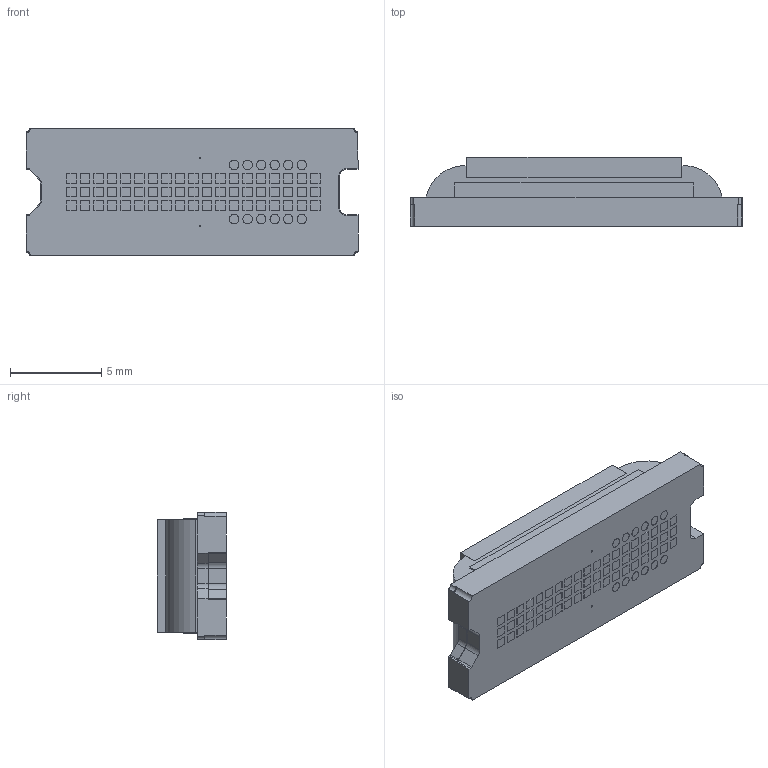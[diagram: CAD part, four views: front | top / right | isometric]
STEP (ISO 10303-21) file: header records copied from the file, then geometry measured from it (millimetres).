
FILE_DESCRIPTION (( 'STEP AP214' ), '1' );
FILE_NAME ('3720p-s245-DMD-Assy-wPads7-9-2013.STEP', '2013-07-09T09:32:13', ( '' ), ( '' ), 'SwSTEP 2.0', 'SolidWorks 2012', '' );
FILE_SCHEMA (( 'AUTOMOTIVE_DESIGN' ));
Length unit declared in the file: millimetre
Products named in the file (5): Test-Elec-Pad; Elec-Pad-s245-DMD; Window-3720p-s245; Ceramic-3720p-s245; 3720p-s245-DMD-Assy-wPads7-9-2013
Assembly tree (71 placements, depth 2):
  3720p-s245-DMD-Assy-wPads7-9-2013
    Ceramic-3720p-s245
    Window-3720p-s245
    Elec-Pad-s245-DMD  x57
    Test-Elec-Pad  x12
Bounding box: 18.2 x 3.79 x 7 mm (x, y, z)
Volume: 373.7 mm3; surface area: 663 mm2
Topology: 71 solids, 71 shells, 490 faces, 1026 edges, 684 vertices
Faces by surface type: plane 436, cylinder 54
Entity records: 4627 total; most frequent: DIRECTION 720, CARTESIAN_POINT 664, ORIENTED_EDGE 576, EDGE_CURVE 288, AXIS2_PLACEMENT_3D 248, VECTOR 224, LINE 224, VERTEX_POINT 192
